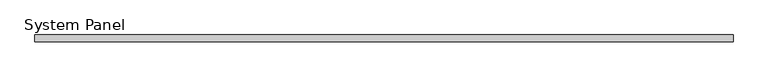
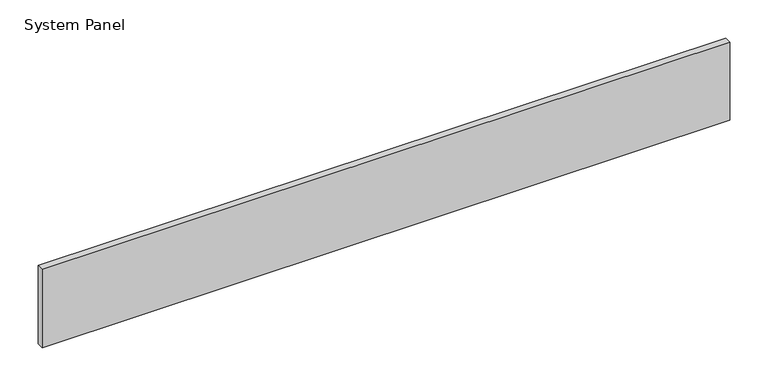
"""IFC4 building model written with IfcOpenShell, lengths in millimetres: plate geometry, System Panel : VACÍO."""

from ifc_helpers import new_model, si_unit, origin, origin_with_axes, place, context, project, spatial, polyline, outline, extrude, source, transform, mapped, element, save


def system_panel_aec64191(model_context):
    return source(origin(), model_context, "Body", "SweptSolid", [
        extrude(outline(polyline([(519.0, -5.0), (-519.0, -5.0), (-519.0, 5.0), (519.0, 5.0), (519.0, -5.0)])), origin_with_axes(), (0.0, 0.0, 1.0), 124.8888889),
    ])


if __name__ == "__main__":
    model = new_model("IFC4")
    model_context = context("Model", 3, world=origin())
    ifc_project = project(units=[si_unit("LENGTHUNIT", "METRE", prefix="MILLI")], contexts=[model_context])
    site = spatial("IfcSite", under=ifc_project)
    building = spatial("IfcBuilding", under=site)
    placement = place(None, origin())
    system_panel_shape = system_panel_aec64191(model_context)
    element("IfcPlate", 1, ObjectType="System Panel : VACÍO", at=placement, inside=building, context=model_context, shape_type="MappedRepresentation", body=[
        mapped(system_panel_shape, transform((0.0, 0.0, 0.0), x_axis=(1.0, 0.0, 0.0), y_axis=(0.0, 1.0, 0.0), z_axis=(0.0, 0.0, 1.0))),
    ])
    save(model, "model.ifc")
